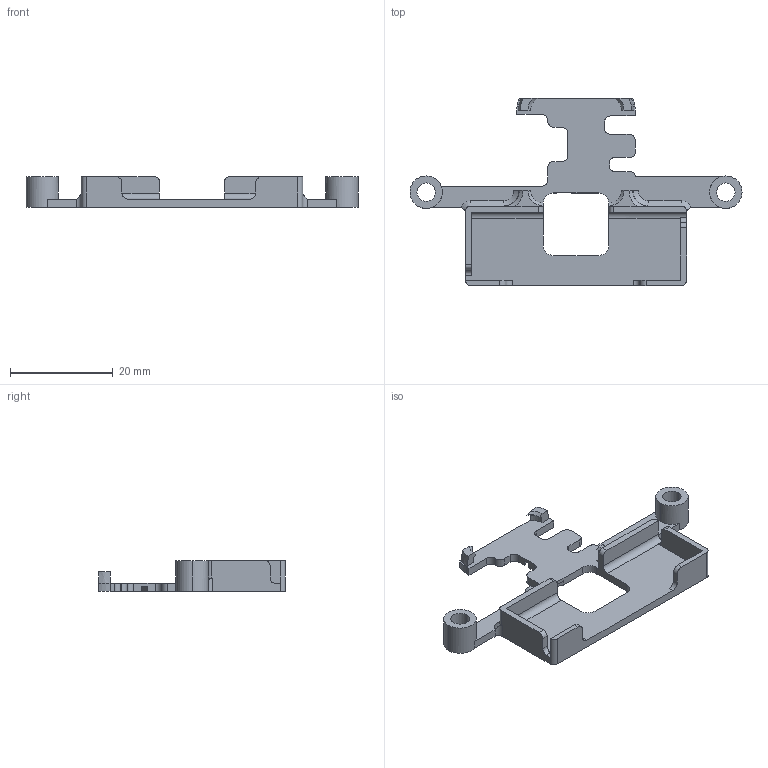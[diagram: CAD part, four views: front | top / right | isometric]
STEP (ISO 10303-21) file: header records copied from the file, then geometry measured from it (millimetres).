
FILE_DESCRIPTION (( 'STEP AP214' ), '1' );
FILE_NAME ('Electonics_table.STEP', '2025-02-14T20:43:33', ( '' ), ( '' ), 'SwSTEP 2.0', 'SolidWorks 2019', '' );
FILE_SCHEMA (( 'AUTOMOTIVE_DESIGN' ));
Length unit declared in the file: millimetre
Products named in the file (1): Electonics_table
Bounding box: 64.5 x 36.33 x 6 mm (x, y, z)
Volume: 2251.8 mm3; surface area: 3523.7 mm2
Topology: 1 solids, 1 shells, 147 faces, 430 edges, 283 vertices
Faces by surface type: plane 72, cylinder 51, cone 18, bspline 6
Entity records: 5637 total; most frequent: CARTESIAN_POINT 1651, ORIENTED_EDGE 860, DIRECTION 814, EDGE_CURVE 430, VERTEX_POINT 283, AXIS2_PLACEMENT_3D 274, LINE 266, VECTOR 266
